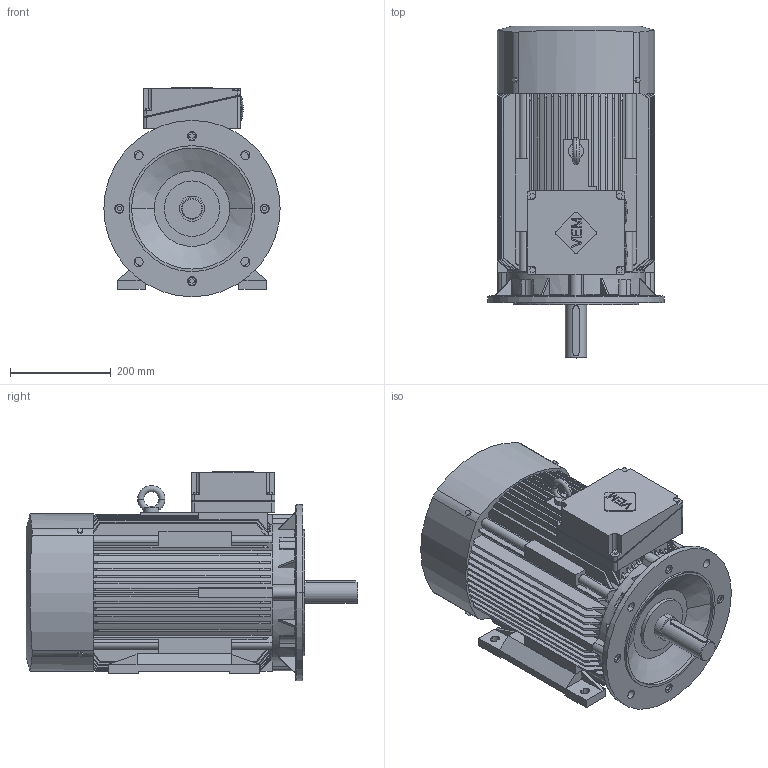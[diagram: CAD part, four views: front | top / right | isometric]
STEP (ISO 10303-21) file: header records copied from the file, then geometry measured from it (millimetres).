
FILE_DESCRIPTION(('STEP AP214'),'1');
FILE_NAME('cctmp_EB4320AB-B4E0-4CAF-AB20-099E507A1B9A_2026_02_06_09_13_01_0721..stp','2026-02-06T08:13:02',('VEM motors GmbH'),('CADClick - www.CADClick.com'),'Spatial InterOp 3D postprocessed',' ','unknown authorization');
FILE_SCHEMA(('AUTOMOTIVE_DESIGN'));
Length unit declared in the file: millimetre
Products named in the file (1): 2026_02_06_09_13_01_0721
Bounding box: 350 x 658.75 x 416 mm (x, y, z)
Volume: 41602443 mm3; surface area: 1825731.7 mm2
Topology: 1 solids, 1 shells, 812 faces, 2282 edges, 1506 vertices
Faces by surface type: plane 494, cylinder 176, cone 112, torus 26, bspline 4
Entity records: 32545 total; most frequent: CARTESIAN_POINT 9547, ORIENTED_EDGE 4564, DIRECTION 4034, EDGE_CURVE 2282, VERTEX_POINT 1506, LINE 1404, VECTOR 1404, AXIS2_PLACEMENT_3D 1315
